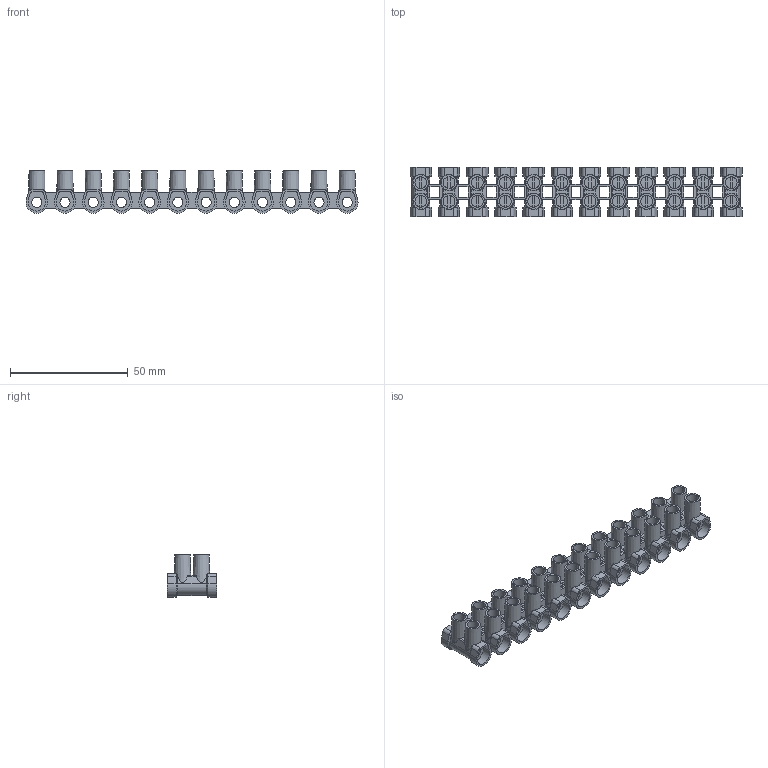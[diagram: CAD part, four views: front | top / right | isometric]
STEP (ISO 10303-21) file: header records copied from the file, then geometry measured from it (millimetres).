
FILE_DESCRIPTION(/* description */ ('Unknown'),/* implementation_level */ '2;1');
FILE_NAME(/* name */ 'MT 110 N',/* time_stamp */ '2021-10-08T10:20:43+02:00',/* author */ ('Unknown'),/* organization */ ('Unknown'),/* preprocessor_version */ 'ST-DEVELOPER v16.7',/* originating_system */ 'Solid Edge',/* authorisation */ 'Unknown');
FILE_SCHEMA (('CONFIG_CONTROL_DESIGN','AUTOMOTIVE_DESIGN {1 0 10303 214 3 1 1}'));
Length unit declared in the file: millimetre
Products named in the file (1): MT 110 N
Bounding box: 141.18 x 21 x 18 mm (x, y, z)
Volume: 15370 mm3; surface area: 21326.5 mm2
Topology: 1 solids, 1 shells, 864 faces, 2310 edges, 1496 vertices
Faces by surface type: plane 552, cylinder 216, cone 96
Full cylindrical faces by diameter (mm): 4.3 x12, 5 x24
Entity records: 26452 total; most frequent: CARTESIAN_POINT 5247, DIRECTION 4392, ORIENTED_EDGE 4380, EDGE_CURVE 2190, AXIS2_PLACEMENT_3D 1573, VERTEX_POINT 1436, LINE 1246, VECTOR 1246
